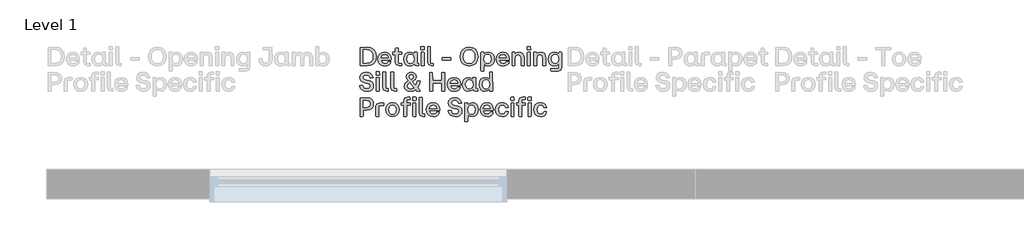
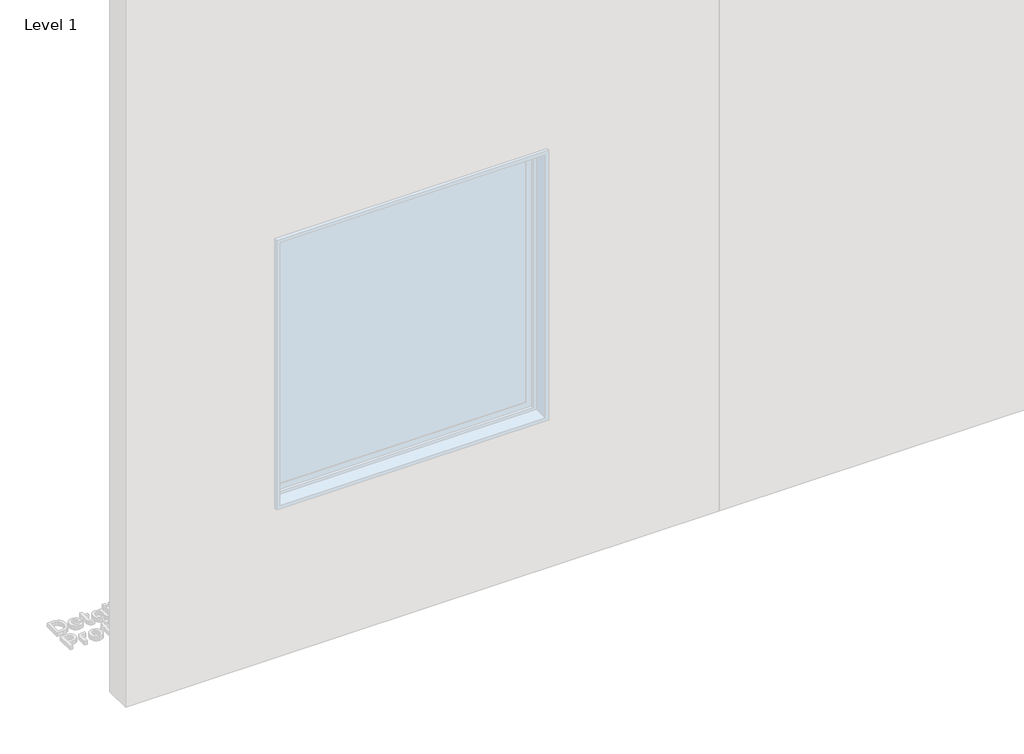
# One storey, part 44 of 64: 1 proxy.
"""IFC4 building model written with IfcOpenShell, lengths in millimetres."""

from ifc_helpers import new_model, si_unit, origin, origin_with_axes, place, context, project, spatial, polyline, outline, extrude, element, save

model = new_model("IFC4")

# Units and contexts
model_context = context("Model", 3, world=origin())
ifc_project = project(units=[si_unit("LENGTHUNIT", "METRE", prefix="MILLI")], contexts=[model_context])

# Site, building, storey
site = spatial("IfcSite", under=ifc_project)
building = spatial("IfcBuilding", under=site)
storey = spatial("IfcBuildingStorey", under=building, Name="Level 1", Elevation=0.0)

# Proxy
placement = place(None, origin())
element("IfcBuildingElementProxy", 1, Name="90mm", ObjectType="90mm", at=placement, inside=storey, context=model_context, shape_type="SweptSolid", body=[
    extrude(outline(polyline([(15110.2926176, -1500.0), (15108.9872124, -1498.7448027), (15108.9872124, -1411.3077612), (15142.5511873, -1410.002356), (15160.5475781, -1413.0054155), (15174.1193986, -1422.0145938), (15182.63905, -1436.3583606), (15185.4789338, -1455.3651852), (15182.648464, -1474.2025582), (15174.1570545, -1488.2890095), (15160.594648, -1497.0722524), (15142.5511873, -1500.0), (15110.2926176, -1500.0)]), holes=[polyline([(15123.7985402, -1487.3727155), (15141.6725492, -1487.3727155), (15153.8950326, -1485.311054), (15162.9481429, -1479.1260695), (15168.5494607, -1469.0625254), (15170.4165666, -1455.3651852), (15168.5431847, -1441.5109454), (15162.923039, -1431.1775339), (15153.8636527, -1424.7477859), (15141.6725492, -1422.6045366), (15123.7985402, -1422.6045366), (15123.7985402, -1487.3727155)])]), origin_with_axes(), (0.0, 0.0, 1.0), 20.0),
    extrude(outline(polyline([(15227.628458, -1500.7531184), (15214.0409476, -1498.4843493), (15203.5035666, -1491.6780421), (15196.7443293, -1481.0622112), (15194.4912502, -1467.3648711), (15196.7349153, -1453.5012173), (15203.4659107, -1442.7881086), (15213.9938777, -1435.9347315), (15227.628458, -1433.6502725), (15240.1584647, -1435.9033516), (15249.7324819, -1442.6625889), (15255.8044987, -1453.3129377), (15257.8285043, -1467.2393514), (15257.8285043, -1470.6785919), (15256.573307, -1472.009101), (15209.1268503, -1472.009101), (15214.6497183, -1484.6865934), (15227.628458, -1489.2053035), (15238.0465953, -1486.9082925), (15243.4439436, -1480.4691305), (15244.8246606, -1479.4147648), (15256.1967478, -1479.4147648), (15254.1633282, -1488.7314665), (15247.8120301, -1495.1925945), (15238.8248176, -1499.3629874), (15227.628458, -1500.7531184)]), holes=[polyline([(15209.2523701, -1461.5909637), (15243.8205028, -1461.5909637), (15239.0633051, -1449.6289337), (15227.628458, -1445.2733992), (15214.8631018, -1449.4155502), (15209.2523701, -1461.5909637)])]), origin_with_axes(), (0.0, 0.0, 1.0), 20.0),
    extrude(outline(polyline([(15296.6140998, -1500.0), (15282.731618, -1495.2302504), (15277.9618684, -1481.3477686), (15277.9618684, -1445.7754781), (15266.7906127, -1445.7754781), (15265.4852076, -1435.7339), (15266.7906127, -1434.4787027), (15277.9618684, -1434.4787027), (15277.9618684, -1416.45407), (15279.2170657, -1415.1486648), (15290.9657121, -1415.1486648), (15292.2209094, -1416.45407), (15292.2209094, -1434.4787027), (15308.0363949, -1434.4787027), (15309.3418001, -1435.7339), (15309.3418001, -1444.444969), (15292.2209094, -1445.7754781), (15292.2209094, -1488.7032246), (15308.0363949, -1488.7032246), (15309.3418001, -1489.9584219), (15309.3418001, -1498.7448027), (15308.0363949, -1500.0), (15296.6140998, -1500.0)])), origin_with_axes(), (0.0, 0.0, 1.0), 20.0),
    extrude(outline(polyline([(15347.2738615, -1500.7531184), (15335.3243835, -1498.4843493), (15326.0861316, -1491.6780421), (15320.1741525, -1481.0622112), (15318.2034928, -1467.3648711), (15320.1741525, -1453.5325972), (15326.0861316, -1442.8132125), (15335.3243835, -1435.9410075), (15347.2738615, -1433.6502725), (15359.1856835, -1436.5372262), (15368.160344, -1444.444969), (15368.7377347, -1435.7339), (15369.992932, -1434.4787027), (15381.6662665, -1434.4787027), (15382.9716717, -1435.7339), (15382.9716717, -1488.7032246), (15390.0760882, -1488.7032246), (15391.3312855, -1489.9584219), (15391.3312855, -1498.7448027), (15390.0760882, -1500.0), (15380.536589, -1500.0), (15372.1581473, -1497.6465051), (15369.3653333, -1490.5860205), (15359.7254183, -1497.8661646), (15347.2738615, -1500.7531184)]), holes=[polyline([(15332.7135732, -1467.3648711), (15337.6716024, -1483.3686362), (15343.5365116, -1487.7461367), (15351.2151809, -1489.2053035), (15358.7714684, -1487.7524127), (15364.470064, -1483.3937402), (15369.2398136, -1467.3648711), (15364.4324081, -1451.1728263), (15358.7243985, -1446.748256), (15351.2151809, -1445.2733992), (15343.5365116, -1446.748256), (15337.6716024, -1451.1728263), (15332.7135732, -1467.3648711)])]), origin_with_axes(), (0.0, 0.0, 1.0), 20.0),
    extrude(outline(polyline([(15403.6824266, -1500.0), (15402.3770214, -1498.7448027), (15402.3770214, -1435.7339), (15403.6824266, -1434.4787027), (15415.3557612, -1434.4787027), (15416.6109584, -1435.7339), (15416.6109584, -1498.7448027), (15415.3557612, -1500.0), (15403.6824266, -1500.0)])), origin_with_axes(), (0.0, 0.0, 1.0), 20.0),
    extrude(outline(polyline([(15401.3728636, -1421.8514182), (15401.3728636, -1407.9940404), (15402.6280609, -1406.6635313), (15416.4854387, -1406.6635313), (15417.8159478, -1421.8514182), (15416.4854387, -1423.1066155), (15402.6280609, -1423.1066155), (15401.3728636, -1421.8514182)])), origin_with_axes(), (0.0, 0.0, 1.0), 20.0),
    extrude(outline(polyline([(15451.5305464, -1500.0), (15437.6731686, -1495.2302504), (15432.903419, -1481.3477686), (15432.903419, -1408.7471587), (15445.8821587, -1407.4166496), (15447.137356, -1408.7471587), (15447.137356, -1488.7032246), (15459.1370418, -1488.7032246), (15460.3922391, -1489.9584219), (15460.3922391, -1498.7448027), (15459.1370418, -1500.0), (15451.5305464, -1500.0)])), origin_with_axes(), (0.0, 0.0, 1.0), 20.0),
    extrude(outline(polyline([(15505.1776775, -1472.887739), (15503.9224803, -1471.5572299), (15503.9224803, -1461.5909637), (15505.1776775, -1460.2604546), (15543.7875455, -1460.2604546), (15545.0427427, -1461.5909637), (15545.0427427, -1471.5572299), (15543.7875455, -1472.887739), (15505.1776775, -1472.887739)])), origin_with_axes(), (0.0, 0.0, 1.0), 20.0),
    extrude(outline(polyline([(15633.1575908, -1500.7531184), (15615.6946589, -1497.6465051), (15602.0663545, -1488.3266654), (15593.2831117, -1473.8730689), (15590.355364, -1455.3651852), (15593.2893876, -1436.62509), (15602.0914585, -1421.92673), (15615.7260388, -1412.4186107), (15633.1575908, -1409.2492376), (15655.6883817, -1414.9603852), (15664.302173, -1421.8639702), (15670.6879891, -1431.1524299), (15675.9598176, -1455.3651852), (15670.6879891, -1479.1637254), (15664.302173, -1488.2952855), (15655.6883817, -1495.1047307), (15633.1575908, -1500.7531184)]), holes=[polyline([(15605.4177312, -1455.3651852), (15607.2848372, -1468.9307297), (15612.886155, -1479.352005), (15621.6882258, -1485.9888605), (15633.1575908, -1488.2011457), (15644.6740257, -1485.9951365), (15653.4666826, -1479.3771089), (15659.0397584, -1468.9621096), (15660.8974504, -1455.3651852), (15659.0303445, -1441.4952554), (15653.4290267, -1430.8637346), (15644.6269558, -1424.1044973), (15633.1575908, -1421.8514182), (15621.6882258, -1424.1044973), (15612.886155, -1430.8637346), (15607.2848372, -1441.4952554), (15605.4177312, -1455.3651852)])]), origin_with_axes(), (0.0, 0.0, 1.0), 20.0),
    extrude(outline(polyline([(15691.2732242, -1524.4010349), (15689.9678191, -1523.1458376), (15689.9678191, -1435.7339), (15691.2732242, -1434.4787027), (15702.3189602, -1434.4787027), (15703.5741575, -1435.7339), (15703.5741575, -1444.3194493), (15713.2140725, -1436.5372262), (15725.6656293, -1433.6502725), (15737.6151073, -1435.9253176), (15746.8533592, -1442.7504527), (15752.7653383, -1453.3913875), (15754.735998, -1467.1138316), (15752.7653383, -1480.9210016), (15746.8533592, -1491.6152823), (15737.6151073, -1498.4686593), (15725.6656293, -1500.7531184), (15713.7538073, -1497.8661646), (15704.7791468, -1489.9584219), (15704.2017561, -1523.1458376), (15702.9465588, -1524.4010349), (15691.2732242, -1524.4010349)]), holes=[polyline([(15703.6996772, -1467.1138316), (15708.5070827, -1483.3058764), (15714.2150923, -1487.7304467), (15721.7243099, -1489.2053035), (15729.4029792, -1487.7304467), (15735.2678884, -1483.3058764), (15740.2259176, -1467.1138316), (15735.2678884, -1451.1100665), (15729.4029792, -1446.732566), (15721.7243099, -1445.2733992), (15714.1680224, -1446.723152), (15708.4694268, -1451.0724106), (15703.6996772, -1467.1138316)])]), origin_with_axes(), (0.0, 0.0, 1.0), 20.0),
    extrude(outline(polyline([(15796.3834433, -1500.7531184), (15782.7959329, -1498.4843493), (15772.2585519, -1491.6780421), (15765.4993146, -1481.0622112), (15763.2462355, -1467.3648711), (15765.4899006, -1453.5012173), (15772.2208959, -1442.7881086), (15782.748863, -1435.9347315), (15796.3834433, -1433.6502725), (15808.91345, -1435.9033516), (15818.4874672, -1442.6625889), (15824.559484, -1453.3129377), (15826.5834895, -1467.2393514), (15826.5834895, -1470.6785919), (15825.3282923, -1472.009101), (15777.8818356, -1472.009101), (15783.4047036, -1484.6865934), (15796.3834433, -1489.2053035), (15806.8015806, -1486.9082925), (15812.1989289, -1480.4691305), (15813.5796459, -1479.4147648), (15824.9517331, -1479.4147648), (15822.9183135, -1488.7314665), (15816.5670154, -1495.1925945), (15807.5798029, -1499.3629874), (15796.3834433, -1500.7531184)]), holes=[polyline([(15778.0073553, -1461.5909637), (15812.5754881, -1461.5909637), (15807.8182904, -1449.6289337), (15796.3834433, -1445.2733992), (15783.6180871, -1449.4155502), (15778.0073553, -1461.5909637)])]), origin_with_axes(), (0.0, 0.0, 1.0), 20.0),
    extrude(outline(polyline([(15840.6919068, -1500.0), (15839.3865017, -1498.7448027), (15839.3865017, -1435.7339), (15840.6919068, -1434.4787027), (15851.7376428, -1434.4787027), (15852.99284, -1435.7339), (15852.99284, -1444.444969), (15862.2875758, -1436.3489466), (15874.2056738, -1433.6502725), (15884.1311462, -1435.5330684), (15891.4144284, -1441.1814561), (15895.8860686, -1450.4573639), (15897.3766154, -1463.2227201), (15897.3766154, -1498.7448027), (15896.0461063, -1500.0), (15884.3727717, -1500.0), (15883.0673665, -1498.7448027), (15883.0673665, -1463.2227201), (15879.5528142, -1449.942733), (15868.4443184, -1445.7754781), (15857.2354068, -1450.0054929), (15853.6204387, -1463.2227201), (15853.6204387, -1498.7448027), (15852.3652414, -1500.0), (15840.6919068, -1500.0)])), origin_with_axes(), (0.0, 0.0, 1.0), 20.0),
    extrude(outline(polyline([(15914.5979219, -1500.0), (15913.2925167, -1498.7448027), (15913.2925167, -1435.7339), (15914.5979219, -1434.4787027), (15926.2712564, -1434.4787027), (15927.5264537, -1435.7339), (15927.5264537, -1498.7448027), (15926.2712564, -1500.0), (15914.5979219, -1500.0)])), origin_with_axes(), (0.0, 0.0, 1.0), 20.0),
    extrude(outline(polyline([(15912.2883589, -1421.8514182), (15912.2883589, -1407.9940404), (15913.5435562, -1406.6635313), (15927.400934, -1406.6635313), (15928.7314431, -1421.8514182), (15927.400934, -1423.1066155), (15913.5435562, -1423.1066155), (15912.2883589, -1421.8514182)])), origin_with_axes(), (0.0, 0.0, 1.0), 20.0),
    extrude(outline(polyline([(15945.1243194, -1500.0), (15943.8189142, -1498.7448027), (15943.8189142, -1435.7339), (15945.1243194, -1434.4787027), (15956.1700553, -1434.4787027), (15957.4252526, -1435.7339), (15957.4252526, -1444.444969), (15966.7199883, -1436.3489466), (15978.6380864, -1433.6502725), (15988.5635588, -1435.5330684), (15995.8468409, -1441.1814561), (16000.3184812, -1450.4573639), (16001.8090279, -1463.2227201), (16001.8090279, -1498.7448027), (16000.4785188, -1500.0), (15988.8051842, -1500.0), (15987.4997791, -1498.7448027), (15987.4997791, -1463.2227201), (15983.9852267, -1449.942733), (15972.8767309, -1445.7754781), (15961.6678193, -1450.0054929), (15958.0528512, -1463.2227201), (15958.0528512, -1498.7448027), (15956.797654, -1500.0), (15945.1243194, -1500.0)])), origin_with_axes(), (0.0, 0.0, 1.0), 20.0),
    extrude(outline(polyline([(16027.5154679, -1524.4010349), (16026.1849588, -1523.1458376), (16026.1849588, -1514.3594567), (16027.5154679, -1513.1042595), (16064.4182676, -1513.1042595), (16064.4182676, -1489.9584219), (16054.8662164, -1497.8661646), (16042.9543943, -1500.7531184), (16031.0049163, -1498.4686593), (16021.7666645, -1491.6152823), (16015.8546853, -1480.9210016), (16013.8840256, -1467.1138316), (16015.8546853, -1453.3913875), (16021.7666645, -1442.7504527), (16031.0049163, -1435.9253176), (16042.9543943, -1433.6502725), (16055.4059512, -1436.5372262), (16064.5437873, -1444.3194493), (16065.0458662, -1435.7339), (16066.3010635, -1434.4787027), (16077.3467994, -1434.4787027), (16078.6522046, -1435.7339), (16078.6522046, -1506.4015061), (16074.0079747, -1519.7944609), (16060.6526758, -1524.4010349), (16027.5154679, -1524.4010349)]), holes=[polyline([(16028.394106, -1467.1138316), (16033.3521352, -1483.3058764), (16039.2170444, -1487.7304467), (16046.8957137, -1489.2053035), (16054.4049314, -1487.7304467), (16060.1129409, -1483.3058764), (16064.9203465, -1467.1138316), (16060.1505969, -1451.0724106), (16054.4520013, -1446.723152), (16046.8957137, -1445.2733992), (16039.2170444, -1446.732566), (16033.3521352, -1451.1100665), (16028.394106, -1467.1138316)])]), origin_with_axes(), (0.0, 0.0, 1.0), 20.0),
    extrude(outline(polyline([(15141.1202624, -1622.8861684), (15127.3507484, -1621.0347524), (15116.6690197, -1615.4805045), (15109.4077035, -1606.5058441), (15105.8994272, -1594.3931904), (15119.1543103, -1592.9371616), (15120.4597154, -1594.142151), (15126.647838, -1606.6941236), (15141.1202624, -1610.5852352), (15153.6345792, -1607.007923), (15158.1156334, -1597.0793126), (15155.0152962, -1588.8326665), (15144.6348148, -1584.7281715), (15132.7606486, -1582.644544), (15121.7557066, -1579.3904451), (15113.8950337, -1574.0715467), (15109.17863, -1566.6878488), (15107.6064954, -1557.2393514), (15109.621087, -1546.397585), (15115.6648619, -1538.2231128), (15125.3173289, -1533.0924939), (15138.1579969, -1531.3822877), (15150.8919732, -1533.1144599), (15160.8268595, -1538.3109766), (15167.6174767, -1546.6643144), (15170.9186455, -1557.86695), (15157.7390742, -1559.2978749), (15156.3081494, -1557.86695), (15150.496586, -1547.1601173), (15138.1579969, -1543.7334288), (15126.3967985, -1546.8714219), (15122.3425113, -1556.034362), (15125.9574795, -1564.732879), (15137.2793588, -1569.2892451), (15149.0782131, -1571.3477686), (15159.8980135, -1574.5171417), (15167.2534695, -1579.6069666), (15171.4709323, -1586.9373187), (15172.8767533, -1596.8282731), (15170.7648839, -1607.7422134), (15164.4292757, -1615.9825834), (15154.3782836, -1621.1602721), (15141.1202624, -1622.8861684)])), origin_with_axes(), (0.0, 0.0, 1.0), 20.0),
    extrude(outline(polyline([(15188.3909915, -1622.13305), (15187.0855863, -1620.8778528), (15187.0855863, -1557.86695), (15188.3909915, -1556.6117527), (15200.0643261, -1556.6117527), (15201.3195233, -1557.86695), (15201.3195233, -1620.8778528), (15200.0643261, -1622.13305), (15188.3909915, -1622.13305)])), origin_with_axes(), (0.0, 0.0, 1.0), 20.0),
    extrude(outline(polyline([(15186.0814285, -1543.9844682), (15186.0814285, -1530.1270904), (15187.3366258, -1528.7965813), (15201.1940036, -1528.7965813), (15202.5245127, -1543.9844682), (15201.1940036, -1545.2396655), (15187.3366258, -1545.2396655), (15186.0814285, -1543.9844682)])), origin_with_axes(), (0.0, 0.0, 1.0), 20.0),
    extrude(outline(polyline([(15236.2391113, -1622.13305), (15222.3817335, -1617.3633004), (15217.6119838, -1603.4808186), (15217.6119838, -1530.8802088), (15230.5907236, -1529.5496997), (15231.8459208, -1530.8802088), (15231.8459208, -1610.8362746), (15243.8456067, -1610.8362746), (15245.100804, -1612.0914719), (15245.100804, -1620.8778528), (15243.8456067, -1622.13305), (15236.2391113, -1622.13305)])), origin_with_axes(), (0.0, 0.0, 1.0), 20.0),
    extrude(outline(polyline([(15274.7987713, -1622.13305), (15260.9413935, -1617.3633004), (15256.1716439, -1603.4808186), (15256.1716439, -1530.8802088), (15269.1503836, -1529.5496997), (15270.4055809, -1530.8802088), (15270.4055809, -1610.8362746), (15282.4052667, -1610.8362746), (15283.660464, -1612.0914719), (15283.660464, -1620.8778528), (15282.4052667, -1622.13305), (15274.7987713, -1622.13305)])), origin_with_axes(), (0.0, 0.0, 1.0), 20.0),
    extrude(outline(polyline([(15350.8637256, -1622.8861684), (15338.8201079, -1621.3171718), (15329.7010997, -1616.610182), (15323.9585722, -1609.1229304), (15322.0443964, -1599.2131479), (15326.4752428, -1583.8997413), (15340.1945489, -1573.8079553), (15338.9895595, -1571.9753673), (15332.7261251, -1562.6366996), (15330.7805694, -1552.2185623), (15332.3558419, -1543.4164915), (15337.0816597, -1536.8423958), (15344.6630511, -1532.7473147), (15354.8050451, -1531.3822877), (15364.8717271, -1532.7159348), (15372.4782226, -1536.716876), (15377.2605241, -1543.0713122), (15378.8546247, -1551.4654439), (15374.109979, -1565.5236533), (15360.5789525, -1575.3643999), (15377.0220367, -1595.0207891), (15383.6243743, -1574.1845144), (15384.8795716, -1572.9293172), (15396.603114, -1572.9293172), (15397.7327916, -1574.1845144), (15394.1554793, -1590.3891112), (15385.6828978, -1604.3594567), (15399.0633007, -1620.5515015), (15382.2938652, -1622.13305), (15380.7876285, -1621.3799317), (15375.6413197, -1615.1541532), (15364.1562647, -1621.0661323), (15350.8637256, -1622.8861684)]), holes=[polyline([(15336.5544768, -1596.9537929), (15340.5711081, -1607.6982815), (15352.3699624, -1611.3383535), (15367.683369, -1606.4430842), (15346.7215747, -1581.1383073), (15339.0962513, -1587.6653331), (15336.5544768, -1596.9537929)]), polyline([(15345.3408577, -1552.2185623), (15346.7215747, -1558.2435092), (15351.3658045, -1564.9462626), (15353.5498478, -1567.5319689), (15361.6458702, -1560.7539037), (15364.3445443, -1551.4654439), (15361.9596695, -1545.0639379), (15354.8050451, -1542.9301025), (15347.6253167, -1545.2145615), (15345.3408577, -1552.2185623)])]), origin_with_axes(), (0.0, 0.0, 1.0), 20.0),
    extrude(outline(polyline([(15502.1652041, -1622.13305), (15500.9100068, -1620.8778528), (15500.9100068, -1582.644544), (15457.9822603, -1582.644544), (15457.9822603, -1620.8778528), (15456.6517512, -1622.13305), (15444.4763378, -1622.13305), (15443.1709326, -1620.8778528), (15443.1709326, -1533.4408112), (15456.6517512, -1532.135406), (15457.9822603, -1570.0925714), (15500.9100068, -1570.0925714), (15500.9100068, -1533.4408112), (15502.1652041, -1532.135406), (15514.3908255, -1532.135406), (15515.6460228, -1533.4408112), (15515.6460228, -1620.8778528), (15514.3908255, -1622.13305), (15502.1652041, -1622.13305)])), origin_with_axes(), (0.0, 0.0, 1.0), 20.0),
    extrude(outline(polyline([(15561.8121782, -1622.8861684), (15548.2246678, -1620.6173993), (15537.6872867, -1613.8110921), (15530.9280495, -1603.1952613), (15528.6749704, -1589.4979211), (15530.9186355, -1575.6342673), (15537.6496308, -1564.9211586), (15548.1775979, -1558.0677815), (15561.8121782, -1555.7833225), (15574.3421849, -1558.0364016), (15583.9162021, -1564.7956389), (15589.9882188, -1575.4459877), (15592.0122244, -1589.3724014), (15592.0122244, -1592.8116419), (15590.7570272, -1594.142151), (15543.3105705, -1594.142151), (15548.8334385, -1606.8196434), (15561.8121782, -1611.3383535), (15572.2303155, -1609.0413425), (15577.6276638, -1602.6021806), (15579.0083808, -1601.5478148), (15590.380468, -1601.5478148), (15588.3470484, -1610.8645166), (15581.9957502, -1617.3256445), (15573.0085378, -1621.4960374), (15561.8121782, -1622.8861684)]), holes=[polyline([(15543.4360902, -1583.7240137), (15578.0042229, -1583.7240137), (15573.2470253, -1571.7619837), (15561.8121782, -1567.4064492), (15549.046822, -1571.5486002), (15543.4360902, -1583.7240137)])]), origin_with_axes(), (0.0, 0.0, 1.0), 20.0),
    extrude(outline(polyline([(15630.0447016, -1622.8861684), (15618.0952236, -1620.6173993), (15608.8569717, -1613.8110921), (15602.9449926, -1603.1952613), (15600.9743329, -1589.4979211), (15602.9449926, -1575.6656472), (15608.8569717, -1564.9462626), (15618.0952236, -1558.0740575), (15630.0447016, -1555.7833225), (15641.9565237, -1558.6702762), (15650.9311841, -1566.578019), (15651.5085749, -1557.86695), (15652.7637721, -1556.6117527), (15664.4371067, -1556.6117527), (15665.7425119, -1557.86695), (15665.7425119, -1610.8362746), (15672.8469284, -1610.8362746), (15674.1021256, -1612.0914719), (15674.1021256, -1620.8778528), (15672.8469284, -1622.13305), (15663.3074292, -1622.13305), (15654.9289874, -1619.7795551), (15652.1361735, -1612.7190705), (15642.4962585, -1619.9992147), (15630.0447016, -1622.8861684)]), holes=[polyline([(15615.4844133, -1589.4979211), (15620.4424425, -1605.5016862), (15626.3073517, -1609.8791867), (15633.986021, -1611.3383535), (15641.5423086, -1609.8854627), (15647.2409041, -1605.5267902), (15652.0106538, -1589.4979211), (15647.2032482, -1573.3058764), (15641.4952387, -1568.881306), (15633.986021, -1567.4064492), (15626.3073517, -1568.881306), (15620.4424425, -1573.3058764), (15615.4844133, -1589.4979211)])]), origin_with_axes(), (0.0, 0.0, 1.0), 20.0),
    extrude(outline(polyline([(15710.3773266, -1622.8861684), (15698.4278487, -1620.6173993), (15689.1895968, -1613.8110921), (15683.2776177, -1603.1952613), (15681.306958, -1589.4979211), (15683.2776177, -1575.6656472), (15689.1895968, -1564.9462626), (15698.4278487, -1558.0740575), (15710.3773266, -1555.7833225), (15722.2891487, -1558.6702762), (15731.2638091, -1566.578019), (15731.8411999, -1530.8802088), (15733.0963972, -1529.5496997), (15744.7697317, -1529.5496997), (15746.0751369, -1620.8778528), (15744.7697317, -1622.13305), (15733.7239958, -1622.13305), (15732.4687985, -1620.8778528), (15732.4687985, -1612.2169916), (15722.8288835, -1619.9992147), (15710.3773266, -1622.8861684)]), holes=[polyline([(15695.8170383, -1589.4979211), (15700.7750676, -1605.5016862), (15706.6399768, -1609.8791867), (15714.3186461, -1611.3383535), (15721.8749336, -1609.8854627), (15727.5735292, -1605.5267902), (15732.3432788, -1589.4979211), (15727.5358733, -1573.3058764), (15721.8278637, -1568.881306), (15714.3186461, -1567.4064492), (15706.6399768, -1568.881306), (15700.7750676, -1573.3058764), (15695.8170383, -1589.4979211)])]), origin_with_axes(), (0.0, 0.0, 1.0), 20.0),
    extrude(outline(polyline([(15110.2926176, -1744.2661), (15108.9872124, -1743.0109028), (15108.9872124, -1655.5738612), (15140.1161046, -1654.268456), (15154.0174144, -1656.1669419), (15164.3414119, -1661.8623995), (15170.7429179, -1671.0567195), (15172.8767533, -1683.4517925), (15170.7429179, -1695.8468655), (15164.3414119, -1705.0411855), (15154.0174144, -1710.7366431), (15140.1161046, -1712.6351289), (15123.7985402, -1712.6351289), (15123.7985402, -1743.0109028), (15122.4680311, -1744.2661), (15110.2926176, -1744.2661)]), holes=[polyline([(15123.7985402, -1700.0078444), (15140.1161046, -1700.0078444), (15153.5969233, -1695.9284533), (15157.9901137, -1683.4392405), (15153.5969233, -1670.9500277), (15140.1161046, -1666.8706366), (15123.7985402, -1666.8706366), (15123.7985402, -1700.0078444)])]), origin_with_axes(), (0.0, 0.0, 1.0), 20.0),
    extrude(outline(polyline([(15186.1065325, -1744.2661), (15184.8513352, -1743.0109028), (15184.8513352, -1697.3217223), (15189.6210848, -1683.4768964), (15203.4784626, -1678.7448027), (15221.7541348, -1678.7448027), (15223.0093321, -1680.0), (15223.0093321, -1689.5394992), (15221.7541348, -1690.7946965), (15199.0852722, -1690.7946965), (15199.0852722, -1743.0109028), (15197.8300749, -1744.2661), (15186.1065325, -1744.2661)])), origin_with_axes(), (0.0, 0.0, 1.0), 20.0),
    extrude(outline(polyline([(15264.2049064, -1745.0192184), (15250.9782652, -1742.7127934), (15240.519334, -1735.7935185), (15233.7130268, -1725.1400317), (15231.4442577, -1711.6309711), (15233.7193028, -1698.0340467), (15240.5444379, -1687.2675922), (15251.0096451, -1680.2541774), (15264.2049064, -1677.9163725), (15277.5570673, -1680.2541774), (15288.0913103, -1687.2675922), (15294.9352734, -1698.0340467), (15297.2165945, -1711.6309711), (15294.9352734, -1725.1400317), (15288.0913103, -1735.7935185), (15277.5570673, -1742.7127934), (15264.2049064, -1745.0192184)]), holes=[polyline([(15245.9543381, -1711.6309711), (15250.8119515, -1727.6598402), (15256.588997, -1732.0185127), (15264.2049064, -1733.4714035), (15271.9024036, -1732.0122367), (15277.7735888, -1727.6347363), (15282.731618, -1711.6309711), (15277.7986928, -1695.4389264), (15271.9337835, -1691.014356), (15264.2049064, -1689.5394992), (15256.588997, -1691.014356), (15250.8119515, -1695.4389264), (15245.9543381, -1711.6309711)])]), origin_with_axes(), (0.0, 0.0, 1.0), 20.0),
    extrude(outline(polyline([(15319.3833782, -1744.2661), (15318.1281809, -1743.0109028), (15318.1281809, -1690.0415781), (15306.9569253, -1690.0415781), (15305.6515201, -1680.0), (15306.9569253, -1678.7448027), (15318.1281809, -1678.7448027), (15318.1281809, -1670.334981), (15322.8979305, -1656.4524993), (15336.7804123, -1651.6827497), (15348.2027074, -1651.6827497), (15349.5081126, -1661.7243278), (15332.3872219, -1663.0548369), (15332.3872219, -1678.7448027), (15348.2027074, -1678.7448027), (15349.5081126, -1680.0), (15349.5081126, -1688.711069), (15332.3872219, -1690.0415781), (15332.3872219, -1743.0109028), (15331.1320246, -1744.2661), (15319.3833782, -1744.2661)])), origin_with_axes(), (0.0, 0.0, 1.0), 20.0),
    extrude(outline(polyline([(15361.3069669, -1666.1175182), (15361.3069669, -1652.2601404), (15362.5621642, -1650.9296313), (15376.4948538, -1650.9296313), (15377.7500511, -1652.2601404), (15377.7500511, -1666.1175182), (15376.4948538, -1667.3727155), (15362.5621642, -1667.3727155), (15361.3069669, -1666.1175182)])), origin_with_axes(), (0.0, 0.0, 1.0), 20.0),
    extrude(outline(polyline([(15362.3111247, -1743.0109028), (15362.3111247, -1680.0), (15363.6416338, -1678.7448027), (15375.3149684, -1678.7448027), (15376.6203735, -1680.0), (15376.6203735, -1743.0109028), (15375.3149684, -1744.2661), (15363.6416338, -1744.2661), (15362.3111247, -1743.0109028)])), origin_with_axes(), (0.0, 0.0, 1.0), 20.0),
    extrude(outline(polyline([(15411.3642339, -1744.2661), (15397.506856, -1739.4963504), (15392.7371064, -1725.6138687), (15392.7371064, -1653.0132588), (15405.7158462, -1651.6827497), (15406.9710434, -1653.0132588), (15406.9710434, -1732.9693246), (15418.9707293, -1732.9693246), (15420.2259266, -1734.2245219), (15420.2259266, -1743.0109028), (15418.9707293, -1744.2661), (15411.3642339, -1744.2661)])), origin_with_axes(), (0.0, 0.0, 1.0), 20.0),
    extrude(outline(polyline([(15460.5930707, -1745.0192184), (15447.0055602, -1742.7504493), (15436.4681792, -1735.9441422), (15429.7089419, -1725.3283113), (15427.4558628, -1711.6309711), (15429.6995279, -1697.7673173), (15436.4305233, -1687.0542086), (15446.9584903, -1680.2008316), (15460.5930707, -1677.9163725), (15473.1230774, -1680.1694516), (15482.6970945, -1686.9286889), (15488.7691113, -1697.5790377), (15490.7931169, -1711.5054514), (15490.7931169, -1714.9446919), (15489.5379196, -1716.275201), (15442.0914629, -1716.275201), (15447.6143309, -1728.9526934), (15460.5930707, -1733.4714035), (15471.011208, -1731.1743925), (15476.4085562, -1724.7352306), (15477.7892732, -1723.6808649), (15489.1613604, -1723.6808649), (15487.1279409, -1732.9975666), (15480.7766427, -1739.4586945), (15471.7894303, -1743.6290874), (15460.5930707, -1745.0192184)]), holes=[polyline([(15442.2169827, -1705.8570637), (15476.7851154, -1705.8570637), (15472.0279177, -1693.8950337), (15460.5930707, -1689.5394992), (15447.8277145, -1693.6816502), (15442.2169827, -1705.8570637)])]), origin_with_axes(), (0.0, 0.0, 1.0), 20.0),
    extrude(outline(polyline([(15566.8831752, -1745.0192184), (15553.1136611, -1743.1678024), (15542.4319324, -1737.6135545), (15535.1706162, -1728.6388941), (15531.6623399, -1716.5262404), (15544.917223, -1715.0702116), (15546.2226282, -1716.275201), (15552.4107507, -1728.8271737), (15566.8831752, -1732.7182852), (15579.3974919, -1729.140973), (15583.8785461, -1719.2123626), (15580.7782089, -1710.9657166), (15570.3977275, -1706.8612215), (15558.5235614, -1704.777594), (15547.5186193, -1701.5234951), (15539.6579465, -1696.2045967), (15534.9415427, -1688.8208988), (15533.3694082, -1679.3724014), (15535.3839998, -1668.530635), (15541.4277746, -1660.3561628), (15551.0802416, -1655.225544), (15563.9209096, -1653.5153377), (15576.6548859, -1655.2475099), (15586.5897722, -1660.4440266), (15593.3803895, -1668.7973644), (15596.6815583, -1680.0), (15583.501987, -1681.4309249), (15582.0710621, -1680.0), (15576.2594987, -1669.2931673), (15563.9209096, -1665.8664788), (15552.1597112, -1669.0044719), (15548.1054241, -1678.167412), (15551.7203922, -1686.865929), (15563.0422715, -1691.4222951), (15574.8411258, -1693.4808186), (15585.6609263, -1696.6501917), (15593.0163822, -1701.7400167), (15597.2338451, -1709.0703687), (15598.639666, -1718.9613231), (15596.5277966, -1729.8752634), (15590.1921884, -1738.1156334), (15580.1411963, -1743.2933222), (15566.8831752, -1745.0192184)])), origin_with_axes(), (0.0, 0.0, 1.0), 20.0),
    extrude(outline(polyline([(15614.1539042, -1768.6671349), (15612.848499, -1767.4119376), (15612.848499, -1680.0), (15614.1539042, -1678.7448027), (15625.1996401, -1678.7448027), (15626.4548374, -1680.0), (15626.4548374, -1688.5855493), (15636.0947524, -1680.8033263), (15648.5463093, -1677.9163725), (15660.4957873, -1680.1914176), (15669.7340392, -1687.0165527), (15675.6460183, -1697.6574875), (15677.616678, -1711.3799317), (15675.6460183, -1725.1871016), (15669.7340392, -1735.8813823), (15660.4957873, -1742.7347594), (15648.5463093, -1745.0192184), (15636.6344872, -1742.1322647), (15627.6598268, -1734.2245219), (15627.082436, -1767.4119376), (15625.8272388, -1768.6671349), (15614.1539042, -1768.6671349)]), holes=[polyline([(15626.5803571, -1711.3799317), (15631.3877627, -1727.5719764), (15637.0957722, -1731.9965468), (15644.6049899, -1733.4714035), (15652.2836592, -1731.9965468), (15658.1485684, -1727.5719764), (15663.1065976, -1711.3799317), (15658.1485684, -1695.3761665), (15652.2836592, -1690.998666), (15644.6049899, -1689.5394992), (15637.0487023, -1690.9892521), (15631.3501068, -1695.3385106), (15626.5803571, -1711.3799317)])]), origin_with_axes(), (0.0, 0.0, 1.0), 20.0),
    extrude(outline(polyline([(15719.2641233, -1745.0192184), (15705.6766129, -1742.7504493), (15695.1392318, -1735.9441422), (15688.3799945, -1725.3283113), (15686.1269155, -1711.6309711), (15688.3705806, -1697.7673173), (15695.1015759, -1687.0542086), (15705.629543, -1680.2008316), (15719.2641233, -1677.9163725), (15731.79413, -1680.1694516), (15741.3681471, -1686.9286889), (15747.4401639, -1697.5790377), (15749.4641695, -1711.5054514), (15749.4641695, -1714.9446919), (15748.2089722, -1716.275201), (15700.7625156, -1716.275201), (15706.2853836, -1728.9526934), (15719.2641233, -1733.4714035), (15729.6822606, -1731.1743925), (15735.0796088, -1724.7352306), (15736.4603258, -1723.6808649), (15747.8324131, -1723.6808649), (15745.7989935, -1732.9975666), (15739.4476953, -1739.4586945), (15730.4604829, -1743.6290874), (15719.2641233, -1745.0192184)]), holes=[polyline([(15700.8880353, -1705.8570637), (15735.456168, -1705.8570637), (15730.6989704, -1693.8950337), (15719.2641233, -1689.5394992), (15706.4987671, -1693.6816502), (15700.8880353, -1705.8570637)])]), origin_with_axes(), (0.0, 0.0, 1.0), 20.0),
    extrude(outline(polyline([(15791.4379661, -1745.0192184), (15777.9445955, -1742.7504493), (15767.4385944, -1735.9441422), (15760.6793571, -1725.3283113), (15758.426278, -1711.6309711), (15760.710737, -1698.0340467), (15767.5641141, -1687.2675922), (15778.1014951, -1680.2541774), (15791.4379661, -1677.9163725), (15802.4209422, -1679.4634032), (15811.3704987, -1684.1044951), (15817.6841409, -1691.2873614), (15820.7593742, -1700.4597154), (15808.1320897, -1701.8404324), (15801.7054797, -1692.3009332), (15791.4379661, -1689.5394992), (15783.680847, -1691.014356), (15777.8316277, -1695.4389264), (15772.9363584, -1711.6309711), (15777.8567317, -1727.6974961), (15783.7122269, -1732.0279267), (15791.4379661, -1733.4714035), (15802.019279, -1730.8354893), (15807.3789714, -1722.3001479), (15808.7596884, -1721.0951585), (15820.1317756, -1721.0951585), (15818.12346, -1731.6042976), (15811.7470579, -1738.8310959), (15802.7033616, -1743.4721878), (15791.4379661, -1745.0192184)])), origin_with_axes(), (0.0, 0.0, 1.0), 20.0),
    extrude(outline(polyline([(15835.8719493, -1744.2661), (15834.5665442, -1743.0109028), (15834.5665442, -1680.0), (15835.8719493, -1678.7448027), (15847.5452839, -1678.7448027), (15848.8004812, -1680.0), (15848.8004812, -1743.0109028), (15847.5452839, -1744.2661), (15835.8719493, -1744.2661)])), origin_with_axes(), (0.0, 0.0, 1.0), 20.0),
    extrude(outline(polyline([(15833.5623863, -1666.1175182), (15833.5623863, -1652.2601404), (15834.8175836, -1650.9296313), (15848.6749614, -1650.9296313), (15850.0054705, -1666.1175182), (15848.6749614, -1667.3727155), (15834.8175836, -1667.3727155), (15833.5623863, -1666.1175182)])), origin_with_axes(), (0.0, 0.0, 1.0), 20.0),
    extrude(outline(polyline([(15873.678491, -1744.2661), (15872.4232937, -1743.0109028), (15872.4232937, -1690.0415781), (15861.252038, -1690.0415781), (15859.9466329, -1680.0), (15861.252038, -1678.7448027), (15872.4232937, -1678.7448027), (15872.4232937, -1670.334981), (15877.1930433, -1656.4524993), (15891.0755251, -1651.6827497), (15902.4978202, -1651.6827497), (15903.8032254, -1661.7243278), (15886.6823347, -1663.0548369), (15886.6823347, -1678.7448027), (15902.4978202, -1678.7448027), (15903.8032254, -1680.0), (15903.8032254, -1688.711069), (15886.6823347, -1690.0415781), (15886.6823347, -1743.0109028), (15885.4271374, -1744.2661), (15873.678491, -1744.2661)])), origin_with_axes(), (0.0, 0.0, 1.0), 20.0),
    extrude(outline(polyline([(15915.6020797, -1666.1175182), (15915.6020797, -1652.2601404), (15916.8572769, -1650.9296313), (15930.7899666, -1650.9296313), (15932.0451639, -1652.2601404), (15932.0451639, -1666.1175182), (15930.7899666, -1667.3727155), (15916.8572769, -1667.3727155), (15915.6020797, -1666.1175182)])), origin_with_axes(), (0.0, 0.0, 1.0), 20.0),
    extrude(outline(polyline([(15916.6062375, -1743.0109028), (15916.6062375, -1680.0), (15917.9367466, -1678.7448027), (15929.6100812, -1678.7448027), (15930.9154863, -1680.0), (15930.9154863, -1743.0109028), (15929.6100812, -1744.2661), (15917.9367466, -1744.2661), (15916.6062375, -1743.0109028)])), origin_with_axes(), (0.0, 0.0, 1.0), 20.0),
    extrude(outline(polyline([(15976.2030037, -1745.0192184), (15962.7096331, -1742.7504493), (15952.203632, -1735.9441422), (15945.4443947, -1725.3283113), (15943.1913156, -1711.6309711), (15945.4757746, -1698.0340467), (15952.3291517, -1687.2675922), (15962.8665327, -1680.2541774), (15976.2030037, -1677.9163725), (15987.1859798, -1679.4634032), (15996.1355363, -1684.1044951), (16002.4491785, -1691.2873614), (16005.5244118, -1700.4597154), (15992.8971273, -1701.8404324), (15986.4705173, -1692.3009332), (15976.2030037, -1689.5394992), (15968.4458846, -1691.014356), (15962.5966653, -1695.4389264), (15957.701396, -1711.6309711), (15962.6217693, -1727.6974961), (15968.4772645, -1732.0279267), (15976.2030037, -1733.4714035), (15986.7843166, -1730.8354893), (15992.144009, -1722.3001479), (15993.524726, -1721.0951585), (16004.8968132, -1721.0951585), (16002.8884976, -1731.6042976), (15996.5120955, -1738.8310959), (15987.4683992, -1743.4721878), (15976.2030037, -1745.0192184)])), origin_with_axes(), (0.0, 0.0, 1.0), 20.0),
])

save(model, "model.ifc")
